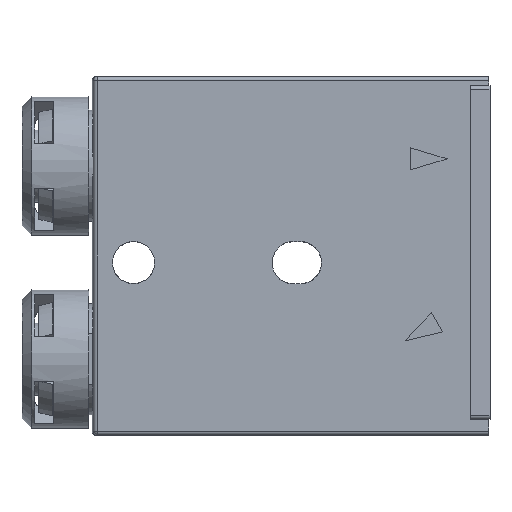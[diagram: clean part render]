
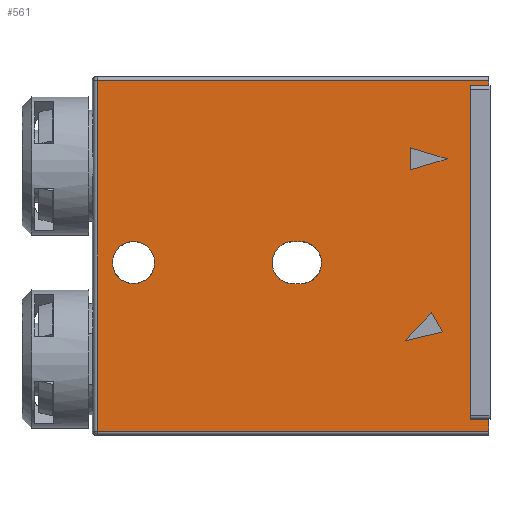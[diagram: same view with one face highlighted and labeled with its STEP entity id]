
A CAD part, front view. The second image highlights one B-rep face of the part: STEP entity #561.
In plain terms, the highlighted planar face has unit normal (0, -1, 0).
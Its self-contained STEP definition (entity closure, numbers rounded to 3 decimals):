
#360=FACE_BOUND('',#1913,.T.);
#361=FACE_BOUND('',#1914,.T.);
#362=FACE_BOUND('',#1915,.T.);
#363=FACE_BOUND('',#1916,.T.);
#364=FACE_BOUND('',#1917,.T.);
#561=ADVANCED_FACE('',(#360,#361,#362,#363,#364),#1077,.T.);
#1077=PLANE('',#10258);
#1913=EDGE_LOOP('',(#4613,#4614,#4615,#4616,#4617,#4618,#4619,#4620));
#1914=EDGE_LOOP('',(#4621));
#1915=EDGE_LOOP('',(#4622,#4623,#4624,#4625));
#1916=EDGE_LOOP('',(#4626,#4627,#4628));
#1917=EDGE_LOOP('',(#4629,#4630,#4631));
#2541=LINE('',#14039,#3553);
#2542=LINE('',#14042,#3554);
#2543=LINE('',#14044,#3555);
#2544=LINE('',#14046,#3556);
#2545=LINE('',#14048,#3557);
#2546=LINE('',#14050,#3558);
#2547=LINE('',#14052,#3559);
#2548=LINE('',#14054,#3560);
#2549=LINE('',#14065,#3561);
#2550=LINE('',#14068,#3562);
#2551=LINE('',#14070,#3563);
#2552=LINE('',#14071,#3564);
#2553=LINE('',#14074,#3565);
#2554=LINE('',#14076,#3566);
#3553=VECTOR('',#11247,1.);
#3554=VECTOR('',#11248,1.);
#3555=VECTOR('',#11249,1.);
#3556=VECTOR('',#11250,1.);
#3557=VECTOR('',#11251,1.);
#3558=VECTOR('',#11252,1.);
#3559=VECTOR('',#11253,1.);
#3560=VECTOR('',#11254,1.);
#3561=VECTOR('',#11265,1.);
#3562=VECTOR('',#11266,1.);
#3563=VECTOR('',#11267,1.);
#3564=VECTOR('',#11268,1.);
#3565=VECTOR('',#11269,1.);
#3566=VECTOR('',#11270,1.);
#4613=ORIENTED_EDGE('',*,*,#8531,.F.);
#4614=ORIENTED_EDGE('',*,*,#8532,.T.);
#4615=ORIENTED_EDGE('',*,*,#8533,.F.);
#4616=ORIENTED_EDGE('',*,*,#8534,.F.);
#4617=ORIENTED_EDGE('',*,*,#8535,.F.);
#4618=ORIENTED_EDGE('',*,*,#8536,.F.);
#4619=ORIENTED_EDGE('',*,*,#8537,.T.);
#4620=ORIENTED_EDGE('',*,*,#8538,.F.);
#4621=ORIENTED_EDGE('',*,*,#8539,.T.);
#4622=ORIENTED_EDGE('',*,*,#8540,.T.);
#4623=ORIENTED_EDGE('',*,*,#8541,.T.);
#4624=ORIENTED_EDGE('',*,*,#8542,.T.);
#4625=ORIENTED_EDGE('',*,*,#8543,.T.);
#4626=ORIENTED_EDGE('',*,*,#8544,.F.);
#4627=ORIENTED_EDGE('',*,*,#8545,.F.);
#4628=ORIENTED_EDGE('',*,*,#8546,.F.);
#4629=ORIENTED_EDGE('',*,*,#8547,.F.);
#4630=ORIENTED_EDGE('',*,*,#8548,.F.);
#4631=ORIENTED_EDGE('',*,*,#8549,.F.);
#7557=VERTEX_POINT('',#14040);
#7558=VERTEX_POINT('',#14041);
#7559=VERTEX_POINT('',#14043);
#7560=VERTEX_POINT('',#14045);
#7561=VERTEX_POINT('',#14047);
#7562=VERTEX_POINT('',#14049);
#7563=VERTEX_POINT('',#14051);
#7564=VERTEX_POINT('',#14053);
#7565=VERTEX_POINT('',#14056);
#7566=VERTEX_POINT('',#14058);
#7567=VERTEX_POINT('',#14059);
#7568=VERTEX_POINT('',#14061);
#7569=VERTEX_POINT('',#14063);
#7570=VERTEX_POINT('',#14066);
#7571=VERTEX_POINT('',#14067);
#7572=VERTEX_POINT('',#14069);
#7573=VERTEX_POINT('',#14072);
#7574=VERTEX_POINT('',#14073);
#7575=VERTEX_POINT('',#14075);
#8531=EDGE_CURVE('',#7557,#7558,#2541,.T.);
#8532=EDGE_CURVE('',#7557,#7559,#2542,.T.);
#8533=EDGE_CURVE('',#7560,#7559,#2543,.T.);
#8534=EDGE_CURVE('',#7561,#7560,#2544,.T.);
#8535=EDGE_CURVE('',#7562,#7561,#2545,.T.);
#8536=EDGE_CURVE('',#7563,#7562,#2546,.T.);
#8537=EDGE_CURVE('',#7563,#7564,#2547,.T.);
#8538=EDGE_CURVE('',#7558,#7564,#2548,.T.);
#8539=EDGE_CURVE('',#7565,#7565,#9943,.T.);
#8540=EDGE_CURVE('',#7566,#7567,#9944,.T.);
#8541=EDGE_CURVE('',#7567,#7568,#9945,.T.);
#8542=EDGE_CURVE('',#7568,#7569,#9946,.T.);
#8543=EDGE_CURVE('',#7569,#7566,#9947,.T.);
#8544=EDGE_CURVE('',#7570,#7571,#2549,.T.);
#8545=EDGE_CURVE('',#7572,#7570,#2550,.T.);
#8546=EDGE_CURVE('',#7571,#7572,#2551,.T.);
#8547=EDGE_CURVE('',#7573,#7574,#2552,.T.);
#8548=EDGE_CURVE('',#7575,#7573,#2553,.T.);
#8549=EDGE_CURVE('',#7574,#7575,#2554,.T.);
#9943=CIRCLE('',#10253,1.517);
#9944=CIRCLE('',#10254,1.517);
#9945=CIRCLE('',#10255,10.701);
#9946=CIRCLE('',#10256,1.517);
#9947=CIRCLE('',#10257,4.257);
#10253=AXIS2_PLACEMENT_3D('',#14055,#11255,#11256);
#10254=AXIS2_PLACEMENT_3D('',#14057,#11257,#11258);
#10255=AXIS2_PLACEMENT_3D('',#14060,#11259,#11260);
#10256=AXIS2_PLACEMENT_3D('',#14062,#11261,#11262);
#10257=AXIS2_PLACEMENT_3D('',#14064,#11263,#11264);
#10258=AXIS2_PLACEMENT_3D('',#14077,#11271,#11272);
#11247=DIRECTION('',(0.,0.,-1.));
#11248=DIRECTION('',(-1.,0.,0.));
#11249=DIRECTION('',(0.,0.,-1.));
#11250=DIRECTION('',(-1.,0.,0.));
#11251=DIRECTION('',(0.,0.,-1.));
#11252=DIRECTION('',(1.,0.,0.));
#11253=DIRECTION('',(0.,0.,-1.));
#11254=DIRECTION('',(-1.,0.,0.));
#11255=DIRECTION('',(0.,1.,0.));
#11256=DIRECTION('',(-1.,0.,0.));
#11257=DIRECTION('',(0.,1.,0.));
#11258=DIRECTION('',(-0.094,0.,-0.996));
#11259=DIRECTION('',(0.,1.,0.));
#11260=DIRECTION('',(-0.028,0.,1.));
#11261=DIRECTION('',(0.,1.,0.));
#11262=DIRECTION('',(0.028,0.,1.));
#11263=DIRECTION('',(0.,1.,0.));
#11264=DIRECTION('',(0.094,0.,-0.996));
#11265=DIRECTION('',(0.958,0.,0.287));
#11266=DIRECTION('',(0.,0.,-1.));
#11267=DIRECTION('',(-0.958,0.,0.287));
#11268=DIRECTION('',(-0.686,0.,-0.728));
#11269=DIRECTION('',(-0.5,0.,0.866));
#11270=DIRECTION('',(0.973,0.,0.23));
#11271=DIRECTION('',(0.,-1.,0.));
#11272=DIRECTION('',(1.,0.,0.));
#14039=CARTESIAN_POINT('',(14.8,-1.45,-11.75));
#14040=CARTESIAN_POINT('',(14.8,-1.45,-11.75));
#14041=CARTESIAN_POINT('',(14.8,-1.45,-12.6));
#14042=CARTESIAN_POINT('',(14.8,-1.45,-11.75));
#14043=CARTESIAN_POINT('',(13.5,-1.45,-11.75));
#14044=CARTESIAN_POINT('',(13.5,-1.45,12.25));
#14045=CARTESIAN_POINT('',(13.5,-1.45,12.25));
#14046=CARTESIAN_POINT('',(14.8,-1.45,12.25));
#14047=CARTESIAN_POINT('',(14.8,-1.45,12.25));
#14048=CARTESIAN_POINT('',(14.8,-1.45,12.6));
#14049=CARTESIAN_POINT('',(14.8,-1.45,12.6));
#14050=CARTESIAN_POINT('',(-13.32,-1.45,12.6));
#14051=CARTESIAN_POINT('',(-13.32,-1.45,12.6));
#14052=CARTESIAN_POINT('',(-13.32,-1.45,12.6));
#14053=CARTESIAN_POINT('',(-13.32,-1.45,-12.6));
#14054=CARTESIAN_POINT('',(14.8,-1.45,-12.6));
#14055=CARTESIAN_POINT('',(-10.73,-1.45,-0.48));
#14056=CARTESIAN_POINT('',(-12.247,-1.45,-0.48));
#14057=CARTESIAN_POINT('',(0.75,-1.45,-0.48));
#14058=CARTESIAN_POINT('',(0.608,-1.45,-1.99));
#14059=CARTESIAN_POINT('',(0.708,-1.45,1.036));
#14060=CARTESIAN_POINT('',(1.007,-1.45,-9.661));
#14061=CARTESIAN_POINT('',(1.307,-1.45,1.036));
#14062=CARTESIAN_POINT('',(1.265,-1.45,-0.48));
#14063=CARTESIAN_POINT('',(1.407,-1.45,-1.99));
#14064=CARTESIAN_POINT('',(1.007,-1.45,2.248));
#14065=CARTESIAN_POINT('',(9.176,-1.45,6.191));
#14066=CARTESIAN_POINT('',(9.176,-1.45,6.191));
#14067=CARTESIAN_POINT('',(11.818,-1.45,6.984));
#14068=CARTESIAN_POINT('',(9.176,-1.45,7.776));
#14069=CARTESIAN_POINT('',(9.176,-1.45,7.776));
#14070=CARTESIAN_POINT('',(11.818,-1.45,6.984));
#14071=CARTESIAN_POINT('',(10.687,-1.45,-4.088));
#14072=CARTESIAN_POINT('',(10.687,-1.45,-4.088));
#14073=CARTESIAN_POINT('',(8.796,-1.45,-6.095));
#14074=CARTESIAN_POINT('',(11.479,-1.45,-5.46));
#14075=CARTESIAN_POINT('',(11.479,-1.45,-5.46));
#14076=CARTESIAN_POINT('',(8.796,-1.45,-6.095));
#14077=CARTESIAN_POINT('',(-13.7,-1.45,45.));
